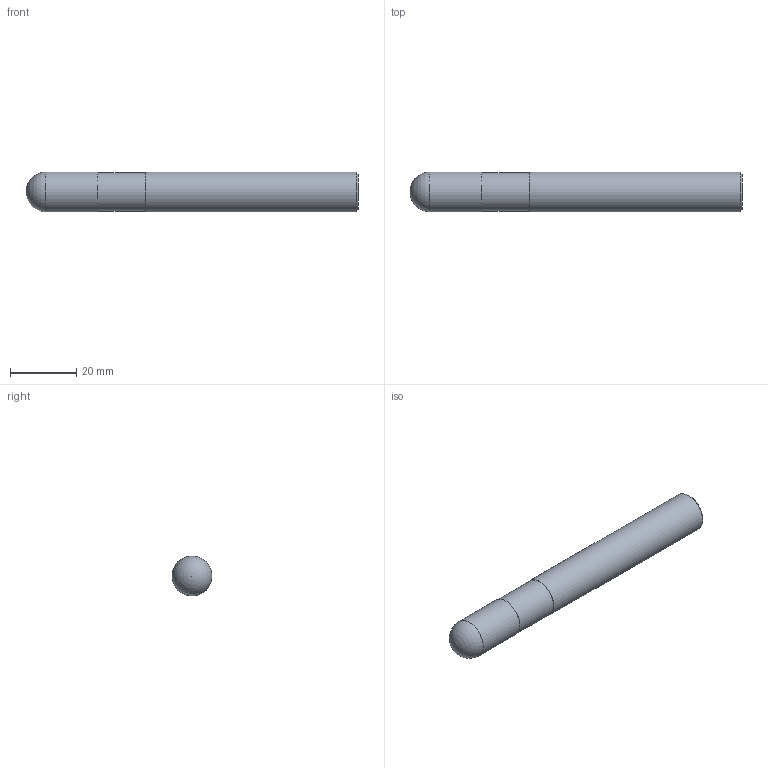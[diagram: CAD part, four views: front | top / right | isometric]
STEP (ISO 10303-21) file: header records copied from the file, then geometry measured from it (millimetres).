
FILE_DESCRIPTION(/* description */ (''),/* implementation_level */ '2;1');
FILE_NAME(/* name */ 'HSXBC4120 12100.stp',/* time_stamp */ '2026-01-27T10:32:39+08:00',/* author */ (''),/* organization */ (''),/* preprocessor_version */ 'ST-DEVELOPER v16',/* originating_system */ 'SIEMENS PLM Software NX 10.0',/* authorisation */ '');
FILE_SCHEMA (('CONFIG_CONTROL_DESIGN'));
Length unit declared in the file: millimetre
Products named in the file (1): HSXBC4120 12100_dxf
Bounding box: 100 x 12 x 12 mm (x, y, z)
Volume: 10996.6 mm3; surface area: 3866.9 mm2
Topology: 1 solids, 1 shells, 8 faces, 14 edges, 9 vertices
Faces by surface type: plane 3, cylinder 3, cone 1, sphere 1
Full cylindrical faces by diameter (mm): 11.7 x1, 12 x2
Entity records: 238 total; most frequent: DIRECTION 32, CARTESIAN_POINT 23, AXIS2_PLACEMENT_3D 16, EDGE_LOOP 14, ORIENTED_EDGE 14, FACE_BOUND 12, ADVANCED_FACE 8, PERSON_AND_ORGANIZATION 7
